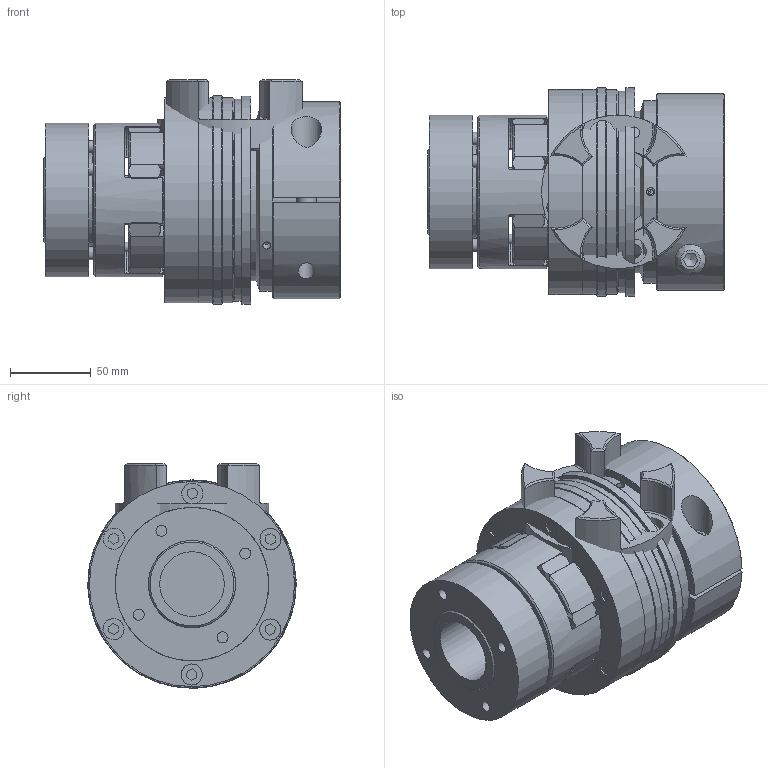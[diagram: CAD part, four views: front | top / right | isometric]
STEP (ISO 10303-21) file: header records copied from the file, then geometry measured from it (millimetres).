
FILE_DESCRIPTION( ( 'Unknown' ), '1' );
FILE_NAME( 'C:/Dokumente und Einstellungen/Sven/Desktop/hp kbk/E-AK/KBK EAK-42-195.stp', 'Unknown', ( 'Unknown' ), ( 'Unknown' ), 'XStep 1.0', 'Unknown', ' ' );
FILE_SCHEMA( ( 'automotive_design' ) );
Length unit declared in the file: millimetre
Products named in the file (19): Assem1; Assem2; Assem3; ball_bearing_-_6013_0_01_0; ball_bearing_-_6013_0_02_0; ball_bearing_-_6013_0_03_0; Zylinderschraube DIN 912_9; Stellring 500_0; Druckring 500_0; Flansch 500_0; a_65_0; Elastormerflansch 42_0; Zahnkranz 42_0; KBE 3 - 42_Druckring_0; ISO EN DIN 4762 M8x35; KBK L-K-500 Grundkörper_0; Klemmnabe 500_0; schraube_iso_7380-m12x40-12_9_0; KBE 3 - 42_Nabe
Bounding box: 183.7 x 129 x 139 mm (x, y, z)
Volume: 2972937.6 mm3; surface area: 709686.4 mm2
Topology: 44 solids, 44 shells, 1002 faces, 2224 edges, 1430 vertices
Faces by surface type: cylinder 364, plane 328, cone 247, torus 61, bspline 2
Full cylindrical faces by diameter (mm): 3 x4, 3.242 x6, 5.1 x6, 5.2 x6, 6 x16, 6.647 x12, 6.8 x16, 7 x5, 8 x18, 8.2 x12, 8.8 x8, 10.106 x2, 12 x2, 12.5 x2, 13 x13, 13.1 x12, 15 x8, 19 x2, 35 x2, 40 x4, 46 x4, 58 x2, 62 x2, 65 x7, 70 x2, 76.3 x6, 86 x4, 89.1 x6, 91 x2, 95 x4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
Entity records: 12111 total; most frequent: CARTESIAN_POINT 2843, DIRECTION 1960, ORIENTED_EDGE 1502, AXIS2_PLACEMENT_3D 911, EDGE_CURVE 751, EDGE_LOOP 678, VERTEX_POINT 562, FACE_OUTER_BOUND 524
